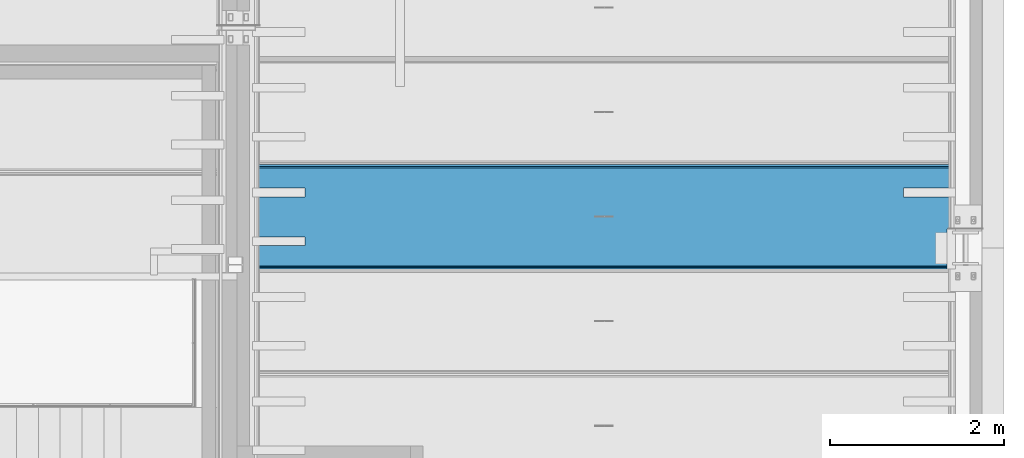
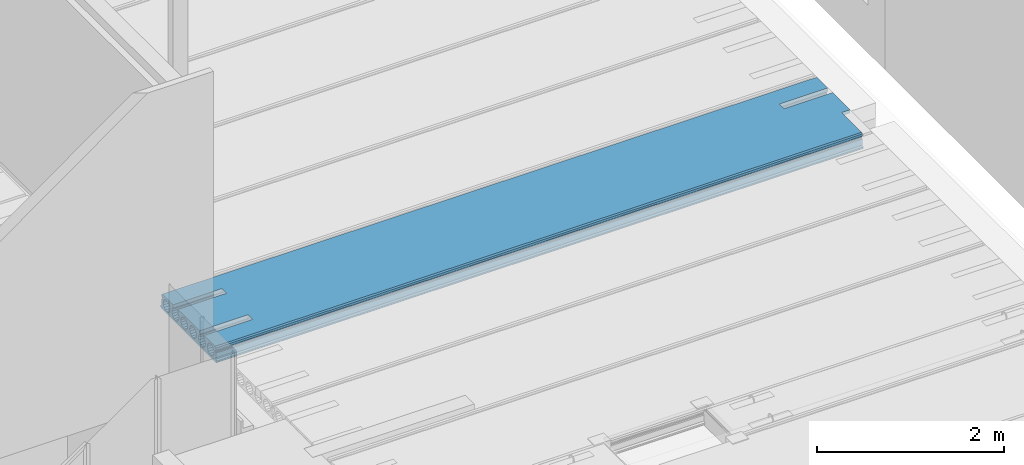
# One storey, part 103 of 230: 1 beam.
"""IFC4X3_ADD2 building model written with IfcOpenShell, lengths in millimetres."""

from ifc_helpers import new_model, si_unit, direction, origin_with_axes, place, context, subcontext, project, spatial, polygons, element, save


model = new_model("IFC4X3_ADD2")

# Units and contexts
model_context = context("Model", 3, precision=1e-05, world=origin_with_axes(), true_north=direction((0.0, 1.0)))
body_context = subcontext(model_context, "Body", "Model", "MODEL_VIEW")
ifc_project = project(units=[si_unit("LENGTHUNIT", "METRE", prefix="MILLI"), si_unit("AREAUNIT", "SQUARE_METRE"), si_unit("VOLUMEUNIT", "CUBIC_METRE"), si_unit("PLANEANGLEUNIT", "RADIAN"), si_unit("TIMEUNIT", "SECOND"), si_unit("MASSUNIT", "GRAM")], contexts=[model_context])

# Site, building, storey
site_placement = place(None, origin_with_axes())
site = spatial("IfcSite", under=ifc_project, at=site_placement, Name="Site", CompositionType="ELEMENT")
building_placement = place(site_placement, origin_with_axes())
building = spatial("IfcBuilding", under=site, at=building_placement, Name="IFC Building Story")
storey_placement = place(building_placement, origin_with_axes())
storey = spatial("IfcBuildingStorey", under=building, at=storey_placement, Name="ETAGE 00 (0)", Elevation=0.0)

# Beam
beam_placement = place(storey_placement, origin_with_axes())
element("IfcBeam", 1, at=beam_placement, inside=storey, Name="HOLLOWCORE SLAB", ObjectType="EB_SP200", context=body_context, shape_type="Tessellation", body=[
    polygons([(40131.189, 5749.0, 3999.9999909), (40131.189, 4571.0, 3999.9999909), (40131.189, 4560.0, 4012.9999909), (40131.189, 4560.0, 4029.9999909), (40131.189, 4580.0, 4044.9999909), (40131.189, 4581.450012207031, 4119.9999909), (40131.189, 4588.982621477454, 4128.676139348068), (40131.189, 4591.839930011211, 4139.805000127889), (40131.189, 4589.418636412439, 4151.036789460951), (40131.189, 4582.22998046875, 4159.9999909), (40131.189, 4582.711296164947, 4185.002769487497), (40131.189, 4598.0, 4199.9999909), (40131.189, 4830.0, 4199.9999909), (40131.189, 4830.0, 4155.806158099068), (40131.189, 4825.320544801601, 4152.679446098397), (40131.189, 4809.170974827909, 4128.509906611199), (40131.189, 4803.5, 4099.9999909), (40131.189, 4809.170974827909, 4071.490075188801), (40131.189, 4825.320544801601, 4047.320535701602), (40131.189, 4849.490084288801, 4031.170965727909), (40131.189, 4878.0, 4025.4999909), (40131.189, 4906.509915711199, 4031.170965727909), (40131.189, 4930.679455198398, 4047.320535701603), (40131.189, 4946.829025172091, 4071.490075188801), (40131.189, 4952.5, 4099.9999909), (40131.189, 4946.829025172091, 4128.509906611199), (40131.189, 4930.679455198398, 4152.679446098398), (40131.189, 4930.0, 4153.13344354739), (40131.189, 4930.0, 4199.9999909), (40131.189, 5390.0, 4199.9999909), (40131.189, 5390.0, 4153.13344354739), (40131.189, 5389.320544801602, 4152.679446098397), (40131.189, 5373.170974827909, 4128.509906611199), (40131.189, 5367.5, 4099.9999909), (40131.189, 5373.170974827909, 4071.490075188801), (40131.189, 5389.320544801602, 4047.320535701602), (40131.189, 5413.490084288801, 4031.170965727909), (40131.189, 5442.0, 4025.4999909), (40131.189, 5470.509915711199, 4031.170965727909), (40131.189, 5494.679455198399, 4047.320535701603), (40131.189, 5510.82902517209, 4071.490075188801), (40131.189, 5516.5, 4099.9999909), (40131.189, 5510.82902517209, 4128.509906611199), (40131.189, 5494.679455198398, 4152.679446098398), (40131.189, 5490.0, 4155.806158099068), (40131.189, 5490.0, 4199.9999909), (40131.189, 5722.0, 4199.9999909), (40131.189, 5737.288703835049, 4185.002769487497), (40131.189, 5737.77001953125, 4159.9999909), (40131.189, 5730.58136358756, 4151.036789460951), (40131.189, 5728.160069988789, 4139.805000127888), (40131.189, 5731.017378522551, 4128.676139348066), (40131.189, 5738.549987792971, 4119.9999909), (40131.189, 5740.0, 4044.9999909), (40131.189, 5760.0, 4029.9999909), (40131.189, 5760.0, 4012.9999909), (40131.189, 5682.679455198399, 4152.679446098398), (40131.189, 5658.5099157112, 4168.829016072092), (40131.189, 5630.0, 4174.4999909), (40131.189, 5601.4900842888, 4168.829016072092), (40131.189, 5577.320544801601, 4152.679446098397), (40131.189, 5561.17097482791, 4128.509906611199), (40131.189, 5555.5, 4099.9999909), (40131.189, 5561.17097482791, 4071.490075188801), (40131.189, 5577.320544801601, 4047.320535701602), (40131.189, 5601.4900842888, 4031.170965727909), (40131.189, 5630.0, 4025.4999909), (40131.189, 5658.5099157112, 4031.170965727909), (40131.189, 5682.679455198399, 4047.320535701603), (40131.189, 5698.82902517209, 4071.490075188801), (40131.189, 5704.5, 4099.9999909), (40131.189, 5698.82902517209, 4128.509906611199), (40131.189, 5306.679455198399, 4152.679446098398), (40131.189, 5282.509915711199, 4168.829016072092), (40131.189, 5254.0, 4174.4999909), (40131.189, 5225.490084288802, 4168.829016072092), (40131.189, 5201.320544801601, 4152.679446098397), (40131.189, 5185.170974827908, 4128.509906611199), (40131.189, 5179.5, 4099.9999909), (40131.189, 5185.17097482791, 4071.490075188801), (40131.189, 5201.320544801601, 4047.320535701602), (40131.189, 5225.490084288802, 4031.170965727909), (40131.189, 5254.0, 4025.4999909), (40131.189, 5282.509915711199, 4031.170965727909), (40131.189, 5306.679455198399, 4047.320535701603), (40131.189, 5322.829025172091, 4071.490075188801), (40131.189, 5328.5, 4099.9999909), (40131.189, 5322.829025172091, 4128.509906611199), (40131.189, 5118.679455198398, 4152.679446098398), (40131.189, 5094.509915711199, 4168.829016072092), (40131.189, 5066.0, 4174.4999909), (40131.189, 5037.490084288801, 4168.829016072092), (40131.189, 5013.320544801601, 4152.679446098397), (40131.189, 4997.170974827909, 4128.509906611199), (40131.189, 4991.5, 4099.9999909), (40131.189, 4997.170974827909, 4071.490075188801), (40131.189, 5013.320544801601, 4047.320535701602), (40131.189, 5037.490084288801, 4031.170965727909), (40131.189, 5066.0, 4025.4999909), (40131.189, 5094.509915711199, 4031.170965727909), (40131.189, 5118.679455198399, 4047.320535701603), (40131.189, 5134.829025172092, 4071.490075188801), (40131.189, 5140.5, 4099.9999909), (40131.189, 5134.82902517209, 4128.509906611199), (40131.189, 4742.679455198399, 4152.679446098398), (40131.189, 4718.509915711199, 4168.829016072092), (40131.189, 4690.0, 4174.4999909), (40131.189, 4661.490084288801, 4168.829016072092), (40131.189, 4637.320544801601, 4152.679446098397), (40131.189, 4621.170974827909, 4128.509906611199), (40131.189, 4615.500000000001, 4099.9999909), (40131.189, 4621.170974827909, 4071.490075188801), (40131.189, 4637.320544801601, 4047.320535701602), (40131.189, 4661.490084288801, 4031.170965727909), (40131.189, 4690.0, 4025.4999909), (40131.189, 4718.509915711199, 4031.170965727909), (40131.189, 4742.679455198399, 4047.320535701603), (40131.189, 4758.829025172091, 4071.490075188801), (40131.189, 4764.5, 4099.9999909), (40131.189, 4758.829025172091, 4128.509906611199), (48196.189, 5749.0, 3999.9999909), (48196.189, 5760.0, 4012.9999909), (48196.189, 5760.0, 4029.9999909), (48196.189, 5740.0, 4044.9999909), (48196.189, 5738.549987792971, 4119.9999909), (48196.189, 5731.017378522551, 4128.676139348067), (48196.189, 5728.160069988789, 4139.805000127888), (48196.189, 5730.58136358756, 4151.036789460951), (48196.189, 5737.77001953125, 4159.9999909), (48196.189, 5737.288703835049, 4185.002769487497), (48196.189, 5722.0, 4199.9999909), (48196.189, 5490.0, 4199.9999909), (48196.189, 5490.0, 4155.806158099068), (48196.189, 5494.679455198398, 4152.679446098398), (48196.189, 5510.82902517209, 4128.509906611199), (48196.189, 5516.5, 4099.9999909), (48196.189, 5510.82902517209, 4071.490075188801), (48196.189, 5494.679455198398, 4047.320535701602), (48196.189, 5470.509915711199, 4031.170965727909), (48196.189, 5442.0, 4025.4999909), (48196.189, 5413.490084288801, 4031.170965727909), (48196.189, 5389.320544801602, 4047.320535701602), (48196.189, 5373.170974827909, 4071.490075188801), (48196.189, 5367.5, 4099.9999909), (48196.189, 5373.170974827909, 4128.509906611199), (48196.189, 5389.320544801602, 4152.679446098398), (48196.189, 5390.0, 4153.13344354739), (48196.189, 5390.0, 4199.9999909), (48196.189, 5020.0, 4199.9999909), (48196.189, 5020.0, 4157.142515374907), (48196.189, 5037.490084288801, 4168.829016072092), (48196.189, 5066.0, 4174.4999909), (48196.189, 5094.509915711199, 4168.829016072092), (48196.189, 5118.679455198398, 4152.679446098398), (48196.189, 5134.829025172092, 4128.509906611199), (48196.189, 5140.5, 4099.9999909), (48196.189, 5134.829025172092, 4071.490075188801), (48196.189, 5118.679455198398, 4047.320535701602), (48196.189, 5094.509915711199, 4031.170965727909), (48196.189, 5066.0, 4025.4999909), (48196.189, 5037.490084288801, 4031.170965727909), (48196.189, 5020.0, 4042.857466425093), (48196.189, 5020.0, 3999.9999909), (48196.189, 5682.679455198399, 4152.679446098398), (48196.189, 5698.82902517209, 4128.509906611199), (48196.189, 5704.5, 4099.9999909), (48196.189, 5698.82902517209, 4071.490075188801), (48196.189, 5682.679455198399, 4047.320535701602), (48196.189, 5658.5099157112, 4031.170965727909), (48196.189, 5630.0, 4025.4999909), (48196.189, 5601.4900842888, 4031.170965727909), (48196.189, 5577.320544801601, 4047.320535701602), (48196.189, 5561.17097482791, 4071.490075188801), (48196.189, 5555.5, 4099.9999909), (48196.189, 5561.17097482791, 4128.509906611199), (48196.189, 5577.320544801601, 4152.679446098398), (48196.189, 5601.4900842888, 4168.829016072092), (48196.189, 5630.0, 4174.4999909), (48196.189, 5658.5099157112, 4168.829016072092), (48196.189, 5306.679455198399, 4152.679446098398), (48196.189, 5322.829025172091, 4128.509906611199), (48196.189, 5328.5, 4099.9999909), (48196.189, 5322.829025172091, 4071.490075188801), (48196.189, 5306.679455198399, 4047.320535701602), (48196.189, 5282.509915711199, 4031.170965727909), (48196.189, 5254.0, 4025.4999909), (48196.189, 5225.490084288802, 4031.170965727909), (48196.189, 5201.320544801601, 4047.320535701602), (48196.189, 5185.170974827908, 4071.490075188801), (48196.189, 5179.5, 4099.9999909), (48196.189, 5185.170974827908, 4128.509906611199), (48196.189, 5201.320544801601, 4152.679446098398), (48196.189, 5225.490084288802, 4168.829016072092), (48196.189, 5254.0, 4174.4999909), (48196.189, 5282.509915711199, 4168.829016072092), (48096.18900000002, 5020.0, 3999.9999909), (48096.18900000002, 4571.0, 3999.9999909), (48096.18900000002, 4560.0, 4012.9999909), (48096.18900000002, 4560.0, 4029.9999909), (48096.18900000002, 4580.0, 4044.9999909), (48096.18900000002, 4581.450012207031, 4119.9999909), (48096.18900000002, 4588.982621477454, 4128.676139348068), (48096.18900000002, 4591.839930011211, 4139.805000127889), (48096.18900000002, 4589.418636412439, 4151.036789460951), (48096.18900000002, 4582.22998046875, 4159.9999909), (48096.18900000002, 4582.711296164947, 4185.002769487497), (48096.18900000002, 4598.0, 4199.9999909), (48096.18900000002, 5020.0, 4199.9999909), (47596.18900000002, 5390.0, 4199.9999909), (47596.18900000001, 5490.0, 4199.9999909), (40731.189, 5490.0, 4199.9999909), (40731.189, 5390.0, 4199.9999909), (40731.189, 4930.0, 4199.9999909), (40731.189, 4830.0, 4199.9999909), (47596.18900000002, 5490.0, 4155.806158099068), (47596.18900000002, 5470.509915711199, 4168.829016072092), (40731.189, 5470.5099157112, 4168.82901607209), (40731.189, 5490.0, 4155.806158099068), (47596.18900000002, 5442.0, 4174.4999909), (40731.189, 5441.999999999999, 4174.4999909), (47596.18900000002, 5413.490084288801, 4168.829016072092), (40731.189, 5413.490084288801, 4168.829016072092), (40731.189, 5390.0, 4153.13344354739), (47596.18900000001, 5390.0, 4153.13344354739), (48096.18900000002, 5020.0, 4157.142515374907), (48096.18900000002, 5013.320544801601, 4152.679446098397), (48096.18900000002, 4997.170974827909, 4128.509906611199), (48096.18900000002, 4991.5, 4099.9999909), (48096.18900000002, 4997.170974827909, 4071.490075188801), (48096.18900000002, 5013.320544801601, 4047.320535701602), (48096.18900000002, 5020.0, 4042.857466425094), (48096.18900000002, 4930.679455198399, 4152.679446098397), (48096.18900000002, 4906.509915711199, 4168.829016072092), (40731.189, 4906.5099157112, 4168.82901607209), (40731.189, 4930.0, 4153.13344354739), (40731.189, 4878.0, 4174.4999909), (48096.18900000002, 4878.0, 4174.4999909), (40731.189, 4849.4900842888, 4168.829016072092), (48096.18900000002, 4849.490084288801, 4168.829016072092), (40731.189, 4830.0, 4155.806158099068), (48096.18900000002, 4825.320544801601, 4152.679446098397), (48096.18900000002, 4809.170974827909, 4128.509906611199), (48096.18900000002, 4803.5, 4099.9999909), (48096.18900000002, 4809.170974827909, 4071.490075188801), (48096.18900000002, 4825.320544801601, 4047.320535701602), (48096.18900000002, 4849.490084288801, 4031.170965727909), (48096.18900000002, 4878.0, 4025.4999909), (48096.18900000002, 4906.509915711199, 4031.170965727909), (48096.18900000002, 4930.679455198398, 4047.320535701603), (48096.18900000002, 4946.829025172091, 4071.490075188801), (48096.18900000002, 4952.5, 4099.9999909), (48096.18900000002, 4946.829025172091, 4128.509906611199), (48096.18900000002, 4742.679455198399, 4152.679446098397), (48096.18900000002, 4718.509915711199, 4168.829016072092), (48096.18900000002, 4690.0, 4174.4999909), (48096.18900000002, 4661.490084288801, 4168.829016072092), (48096.18900000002, 4637.320544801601, 4152.679446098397), (48096.18900000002, 4621.170974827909, 4128.509906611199), (48096.18900000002, 4615.500000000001, 4099.9999909), (48096.18900000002, 4621.170974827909, 4071.490075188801), (48096.18900000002, 4637.320544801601, 4047.320535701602), (48096.18900000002, 4661.490084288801, 4031.170965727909), (48096.18900000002, 4690.0, 4025.4999909), (48096.18900000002, 4718.509915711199, 4031.170965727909), (48096.18900000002, 4742.679455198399, 4047.320535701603), (48096.18900000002, 4758.829025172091, 4071.490075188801), (48096.18900000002, 4764.5, 4099.9999909), (48096.18900000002, 4758.829025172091, 4128.509906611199), (40731.189, 5390.0, 4199.999996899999), (40731.189, 5490.0, 4199.999996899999), (47596.18900000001, 5490.0, 4199.999996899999), (47596.18900000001, 5390.0, 4199.999996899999), (40731.189, 4830.0, 4199.999996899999), (40731.189, 4930.0, 4199.999996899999), (48096.18900000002, 5020.0, 3999.9999969), (48096.18900000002, 5020.0, 4199.999996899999)], [[[27, 28, 29]], [[92, 93, 26]], [[92, 26, 27]], [[92, 27, 29]], [[29, 91, 92]], [[91, 29, 30]], [[30, 90, 91]], [[30, 89, 90]], [[94, 95, 25]], [[94, 25, 26]], [[26, 93, 94]], [[96, 97, 24]], [[24, 25, 95]], [[24, 95, 96]], [[97, 23, 24]], [[76, 77, 104]], [[76, 104, 89]], [[89, 75, 76]], [[75, 89, 30]], [[30, 74, 75]], [[30, 73, 74]], [[78, 79, 103]], [[78, 103, 104]], [[104, 77, 78]], [[80, 81, 102]], [[102, 103, 79]], [[102, 79, 80]], [[81, 101, 102]], [[88, 73, 30]], [[88, 30, 31]], [[33, 34, 87]], [[33, 87, 88]], [[88, 32, 33]], [[88, 31, 32]], [[35, 36, 86]], [[86, 87, 34]], [[86, 34, 35]], [[36, 85, 86]], [[44, 45, 46]], [[60, 61, 43]], [[60, 43, 44]], [[60, 44, 46]], [[46, 59, 60]], [[46, 47, 59]], [[47, 58, 59]], [[47, 57, 58]], [[62, 63, 42]], [[62, 42, 43]], [[43, 61, 62]], [[64, 65, 41]], [[41, 42, 63]], [[41, 63, 64]], [[50, 51, 72]], [[50, 72, 57]], [[57, 47, 48]], [[57, 48, 49]], [[57, 49, 50]], [[52, 53, 71]], [[52, 71, 72]], [[72, 51, 52]], [[53, 54, 70]], [[53, 70, 71]], [[54, 55, 56]], [[54, 56, 1]], [[1, 69, 70]], [[1, 70, 54]], [[1, 68, 69]], [[1, 67, 68]], [[1, 66, 67]], [[1, 40, 66]], [[40, 41, 65]], [[40, 65, 66]], [[1, 39, 40]], [[1, 38, 39]], [[1, 84, 38]], [[84, 37, 38]], [[84, 85, 36]], [[84, 36, 37]], [[1, 83, 84]], [[1, 100, 83]], [[100, 82, 83]], [[100, 101, 81]], [[100, 81, 82]], [[1, 99, 100]], [[1, 22, 99]], [[22, 98, 99]], [[22, 23, 97]], [[22, 97, 98]], [[1, 21, 22]], [[1, 2, 21]], [[2, 20, 21]], [[2, 19, 20]], [[9, 10, 11]], [[9, 11, 12]], [[109, 110, 8]], [[109, 8, 9]], [[9, 12, 108]], [[9, 108, 109]], [[12, 107, 108]], [[107, 12, 13]], [[13, 106, 107]], [[13, 105, 106]], [[110, 7, 8]], [[112, 113, 5]], [[5, 6, 111]], [[5, 111, 112]], [[6, 7, 110]], [[6, 110, 111]], [[116, 117, 18]], [[116, 18, 19]], [[19, 115, 116]], [[19, 2, 115]], [[2, 114, 115]], [[2, 5, 113]], [[2, 113, 114]], [[2, 3, 4]], [[2, 4, 5]], [[118, 119, 17]], [[118, 17, 18]], [[18, 117, 118]], [[120, 105, 16]], [[16, 17, 119]], [[16, 119, 120]], [[105, 13, 15]], [[105, 15, 16]], [[13, 14, 15]], [[161, 162, 163]], [[163, 160, 161]], [[163, 159, 160]], [[128, 129, 130]], [[128, 130, 131]], [[128, 131, 164]], [[164, 165, 127]], [[164, 127, 128]], [[165, 126, 127]], [[167, 168, 124]], [[124, 125, 166]], [[124, 166, 167]], [[125, 126, 165]], [[125, 165, 166]], [[179, 164, 131]], [[131, 178, 179]], [[178, 131, 132]], [[132, 177, 178]], [[132, 176, 177]], [[132, 133, 175]], [[132, 175, 176]], [[135, 136, 174]], [[135, 174, 175]], [[175, 134, 135]], [[175, 133, 134]], [[137, 138, 173]], [[173, 174, 136]], [[173, 136, 137]], [[138, 172, 173]], [[146, 147, 148]], [[148, 180, 145]], [[148, 145, 146]], [[181, 182, 144]], [[181, 144, 145]], [[145, 180, 181]], [[183, 184, 143]], [[143, 144, 182]], [[143, 182, 183]], [[184, 142, 143]], [[187, 188, 158]], [[187, 158, 159]], [[159, 186, 187]], [[186, 159, 163]], [[163, 141, 186]], [[141, 185, 186]], [[141, 142, 184]], [[141, 184, 185]], [[163, 140, 141]], [[163, 171, 140]], [[171, 139, 140]], [[171, 172, 138]], [[171, 138, 139]], [[163, 170, 171]], [[163, 121, 170]], [[121, 169, 170]], [[121, 124, 168]], [[121, 168, 169]], [[121, 122, 123]], [[121, 123, 124]], [[188, 157, 158]], [[189, 190, 156]], [[189, 156, 157]], [[157, 188, 189]], [[191, 192, 155]], [[155, 156, 190]], [[155, 190, 191]], [[195, 180, 148]], [[148, 194, 195]], [[148, 154, 194]], [[154, 193, 194]], [[154, 155, 192]], [[154, 192, 193]], [[148, 153, 154]], [[148, 149, 153]], [[149, 152, 153]], [[149, 151, 152]], [[149, 150, 151]], [[196, 197, 2]], [[196, 2, 1]], [[1, 121, 196]], [[121, 163, 196]], [[3, 2, 197, 198]], [[4, 3, 198, 199]], [[5, 4, 199, 200]], [[6, 5, 200, 201]], [[7, 6, 201, 202]], [[8, 7, 202, 203]], [[9, 8, 203, 204]], [[10, 9, 204, 205]], [[11, 10, 205, 206]], [[12, 11, 206, 207]], [[208, 149, 148]], [[210, 132, 131]], [[210, 131, 47]], [[47, 209, 210]], [[212, 30, 29]], [[212, 29, 213]], [[214, 13, 12]], [[214, 12, 207]], [[207, 213, 214]], [[212, 213, 207]], [[207, 211, 212]], [[207, 209, 47]], [[207, 47, 211]], [[47, 46, 211]], [[208, 148, 209]], [[209, 207, 208]], [[48, 47, 131, 130]], [[49, 48, 130, 129]], [[50, 49, 129, 128]], [[51, 50, 128, 127]], [[52, 51, 127, 126]], [[53, 52, 126, 125]], [[54, 53, 125, 124]], [[55, 54, 124, 123]], [[56, 55, 123, 122]], [[1, 56, 122, 121]], [[58, 57, 164, 179]], [[59, 58, 179, 178]], [[60, 59, 178, 177]], [[61, 60, 177, 176]], [[62, 61, 176, 175]], [[63, 62, 175, 174]], [[64, 63, 174, 173]], [[65, 64, 173, 172]], [[66, 65, 172, 171]], [[67, 66, 171, 170]], [[68, 67, 170, 169]], [[69, 68, 169, 168]], [[70, 69, 168, 167]], [[71, 70, 167, 166]], [[72, 71, 166, 165]], [[57, 72, 165, 164]], [[218, 45, 44]], [[218, 44, 215]], [[215, 216, 217]], [[215, 217, 218]], [[44, 134, 215]], [[134, 133, 215]], [[217, 216, 219, 220]], [[220, 219, 221, 222]], [[224, 147, 146]], [[224, 146, 223]], [[223, 222, 221]], [[223, 221, 224]], [[146, 32, 223]], [[32, 31, 223]], [[33, 32, 146, 145]], [[34, 33, 145, 144]], [[35, 34, 144, 143]], [[36, 35, 143, 142]], [[37, 36, 142, 141]], [[38, 37, 141, 140]], [[39, 38, 140, 139]], [[40, 39, 139, 138]], [[41, 40, 138, 137]], [[42, 41, 137, 136]], [[43, 42, 136, 135]], [[44, 43, 135, 134]], [[74, 73, 180, 195]], [[75, 74, 195, 194]], [[76, 75, 194, 193]], [[77, 76, 193, 192]], [[78, 77, 192, 191]], [[79, 78, 191, 190]], [[80, 79, 190, 189]], [[81, 80, 189, 188]], [[82, 81, 188, 187]], [[83, 82, 187, 186]], [[84, 83, 186, 185]], [[85, 84, 185, 184]], [[86, 85, 184, 183]], [[87, 86, 183, 182]], [[88, 87, 182, 181]], [[73, 88, 181, 180]], [[90, 89, 154, 153]], [[91, 90, 153, 152]], [[92, 91, 152, 151]], [[225, 226, 93]], [[93, 92, 151]], [[93, 151, 225]], [[151, 150, 225]], [[94, 93, 226, 227]], [[95, 94, 227, 228]], [[96, 95, 228, 229]], [[97, 96, 229, 230]], [[231, 162, 161]], [[231, 161, 98]], [[231, 98, 97]], [[97, 230, 231]], [[99, 98, 161, 160]], [[100, 99, 160, 159]], [[101, 100, 159, 158]], [[102, 101, 158, 157]], [[103, 102, 157, 156]], [[104, 103, 156, 155]], [[89, 104, 155, 154]], [[235, 28, 27]], [[235, 27, 232]], [[232, 233, 234]], [[232, 234, 235]], [[236, 234, 233, 237]], [[238, 236, 237, 239]], [[240, 238, 239]], [[240, 239, 241]], [[241, 15, 240]], [[15, 14, 240]], [[16, 15, 241, 242]], [[17, 16, 242, 243]], [[18, 17, 243, 244]], [[19, 18, 244, 245]], [[20, 19, 245, 246]], [[21, 20, 246, 247]], [[22, 21, 247, 248]], [[23, 22, 248, 249]], [[24, 23, 249, 250]], [[25, 24, 250, 251]], [[26, 25, 251, 252]], [[27, 26, 252, 232]], [[106, 105, 253, 254]], [[107, 106, 254, 255]], [[108, 107, 255, 256]], [[109, 108, 256, 257]], [[110, 109, 257, 258]], [[111, 110, 258, 259]], [[112, 111, 259, 260]], [[113, 112, 260, 261]], [[114, 113, 261, 262]], [[115, 114, 262, 263]], [[116, 115, 263, 264]], [[117, 116, 264, 265]], [[118, 117, 265, 266]], [[119, 118, 266, 267]], [[120, 119, 267, 268]], [[105, 120, 268, 253]], [[46, 45, 218, 211]], [[31, 30, 269, 223]], [[222, 223, 212]], [[212, 270, 220]], [[212, 220, 222]], [[270, 217, 220]], [[270, 218, 217]], [[148, 147, 224, 209]], [[133, 132, 271, 215]], [[216, 215, 210]], [[210, 219, 216]], [[210, 272, 221]], [[210, 221, 219]], [[272, 224, 221]], [[29, 28, 235, 213]], [[14, 13, 273, 240]], [[238, 240, 214]], [[214, 236, 238]], [[214, 274, 234]], [[214, 234, 236]], [[274, 235, 234]], [[231, 196, 163, 162]], [[233, 232, 252]], [[233, 252, 251]], [[233, 251, 250]], [[233, 250, 249]], [[233, 249, 248]], [[233, 248, 247]], [[233, 247, 246]], [[233, 246, 245]], [[233, 245, 244]], [[233, 244, 243]], [[233, 243, 242]], [[233, 242, 241]], [[233, 241, 239]], [[233, 239, 237]], [[276, 225, 150, 149]]]),
])

save(model, "model.ifc")
